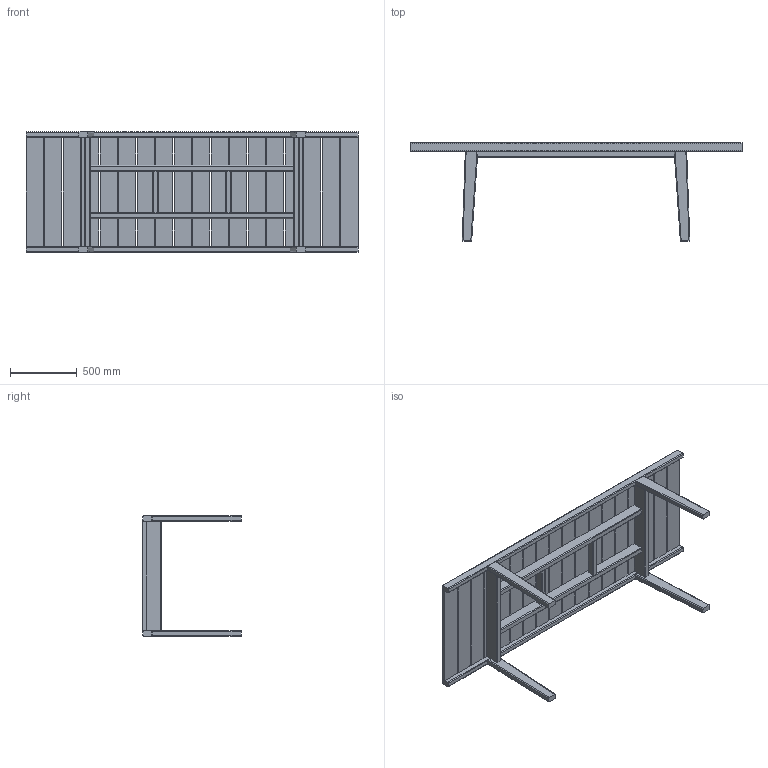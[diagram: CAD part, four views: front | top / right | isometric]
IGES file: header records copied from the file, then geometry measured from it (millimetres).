
Start section: SolidWorks IGES file using analytic representation for surfaces
Global section: file name: C:\Users\Utilizador\Desktop\Outdoor Files\580 Outdoor Dining Table\3D IGS\580 Outdoor Dining Table_3D IGS.IGS; native system: SolidWorks 2016; preprocessor: SolidWorks 2016; author: Utilizador; date: 220124.165805; units: millimetre
Bounding box: 2485 x 735 x 900 mm (x, y, z)
Surface area: 7133828.5 mm2 (no closed solid volume)
Topology: 0 solids, 0 shells, 456 faces, 4520 edges, 4520 vertices
Faces by surface type: bspline 364, revolution 92
